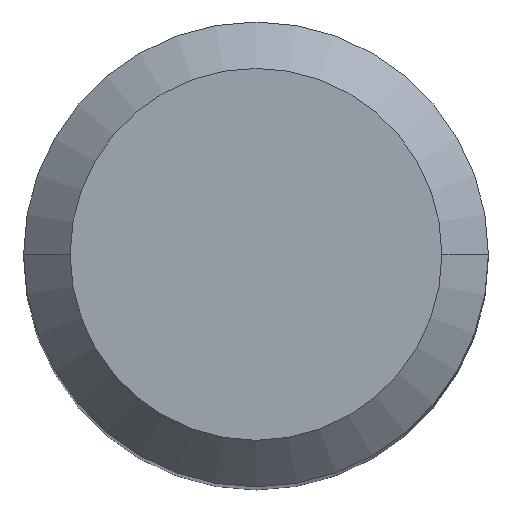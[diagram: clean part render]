
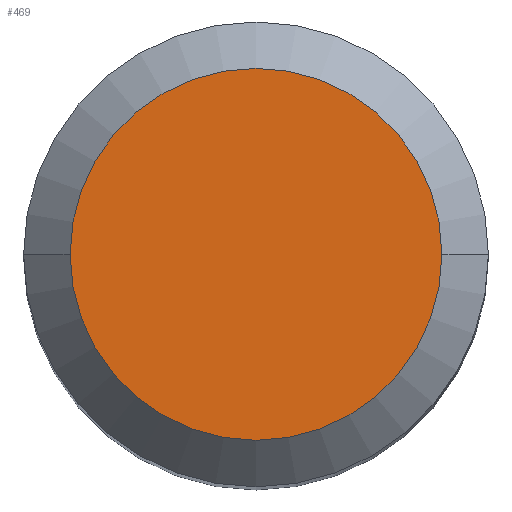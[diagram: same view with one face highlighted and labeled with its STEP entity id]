
A CAD part, top view. The second image highlights one B-rep face of the part: STEP entity #469.
In plain terms, the highlighted planar face has unit normal (0, 0, 1).
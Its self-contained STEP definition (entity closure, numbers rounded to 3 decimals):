
#16 = AXIS2_PLACEMENT_3D ( 'NONE', #244, #422, #463 ) ;
#22 = AXIS2_PLACEMENT_3D ( 'NONE', #524, #253, #78 ) ;
#78 = DIRECTION ( 'NONE',  ( -1., 0., 0. ) ) ;
#123 = VERTEX_POINT ( 'NONE', #423 ) ;
#160 = VERTEX_POINT ( 'NONE', #203 ) ;
#170 = AXIS2_PLACEMENT_3D ( 'NONE', #229, #266, #406 ) ;
#172 = ORIENTED_EDGE ( 'NONE', *, *, #559, .F. ) ;
#193 = EDGE_CURVE ( 'NONE', #123, #160, #373, .T. ) ;
#203 = CARTESIAN_POINT ( 'NONE',  ( 4., 0., 0. ) ) ;
#229 = CARTESIAN_POINT ( 'NONE',  ( 0., 4., 0. ) ) ;
#236 = FACE_OUTER_BOUND ( 'NONE', #402, .T. ) ;
#244 = CARTESIAN_POINT ( 'NONE',  ( 0., 0., 0. ) ) ;
#246 = ORIENTED_EDGE ( 'NONE', *, *, #193, .F. ) ;
#253 = DIRECTION ( 'NONE',  ( 0., 0., -1. ) ) ;
#266 = DIRECTION ( 'NONE',  ( 0., 0., 1. ) ) ;
#373 = CIRCLE ( 'NONE', #22, 4. ) ;
#393 = CIRCLE ( 'NONE', #16, 4. ) ;
#402 = EDGE_LOOP ( 'NONE', ( #246, #172 ) ) ;
#406 = DIRECTION ( 'NONE',  ( 1., 0., 0. ) ) ;
#416 = PLANE ( 'NONE',  #170 ) ;
#422 = DIRECTION ( 'NONE',  ( 0., 0., -1. ) ) ;
#423 = CARTESIAN_POINT ( 'NONE',  ( -4., 0., 0. ) ) ;
#463 = DIRECTION ( 'NONE',  ( -1., 0., 0. ) ) ;
#469 = ADVANCED_FACE ( 'NONE', ( #236 ), #416, .T. ) ;
#524 = CARTESIAN_POINT ( 'NONE',  ( 0., 0., 0. ) ) ;
#559 = EDGE_CURVE ( 'NONE', #160, #123, #393, .T. ) ;
